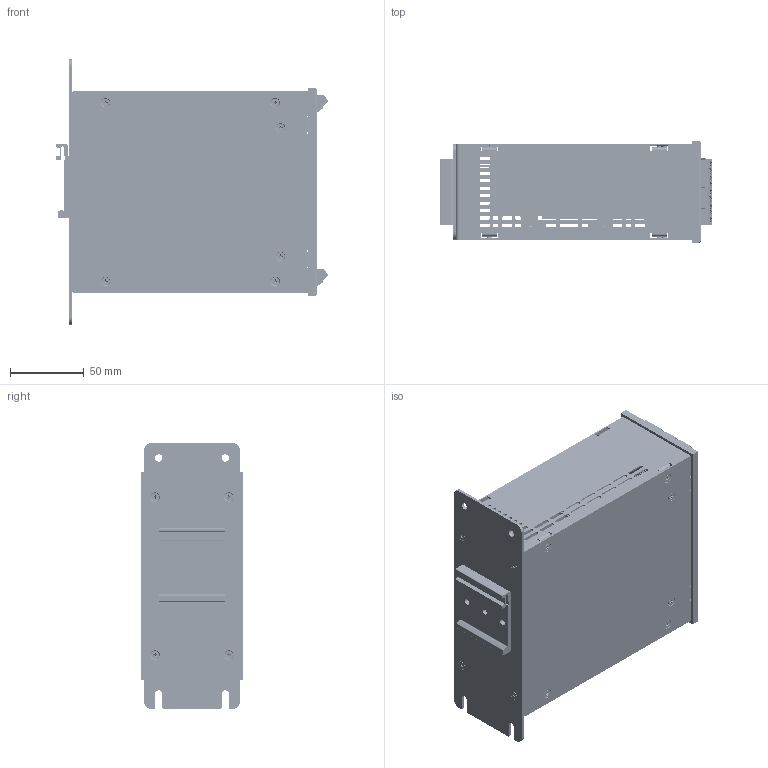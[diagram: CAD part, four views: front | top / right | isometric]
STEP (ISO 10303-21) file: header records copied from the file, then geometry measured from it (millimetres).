
FILE_DESCRIPTION(('STEP AP214'), '1');
FILE_NAME('Áëîê ïèòàíèÿ NLS-150-24', '', ('UNSPECIFIED'), ('UNSPECIFIED'), 'ASCON STEP Converter 1.6', 'ASCON Math Kernel', '');
FILE_SCHEMA(('AUTOMOTIVE_DESIGN { 1 0 10303 214 3 1 1}'));
Length unit declared in the file: millimetre
Bounding box: 184.54 x 69 x 180 mm (x, y, z)
Volume: 190701.7 mm3; surface area: 244144.1 mm2
Topology: 93 solids, 113 shells, 31814 faces, 90167 edges, 59137 vertices
Faces by surface type: plane 24525, cylinder 5218, extrusion 1096, sphere 552, bspline 246, cone 116, torus 59, revolution 2
Full cylindrical faces by diameter (mm): 0.2 x1, 0.3 x74, 0.4 x26, 0.5 x2, 0.7 x1, 0.8 x65, 0.9 x6, 1 x3, 1.2 x9, 1.3 x12, 1.5 x16, 2.459 x2, 2.7 x2, 3 x32, 3.2 x4, 3.5 x12, 3.7 x6, 4 x5, 4.1 x16, 4.2 x1, 4.4 x4, 4.5 x2, 4.6 x1, 4.8 x2, 5 x2, 5.1 x12, 5.2 x2, 5.6 x24, 56 x1
Entity records: 1298835 total; most frequent: CARTESIAN_POINT 218561, ORIENTED_EDGE 178284, DIRECTION 158691, EDGE_CURVE 89142, VECTOR 76131, LINE 75035, VERTEX_POINT 59133, AXIS2_PLACEMENT_3D 41279
